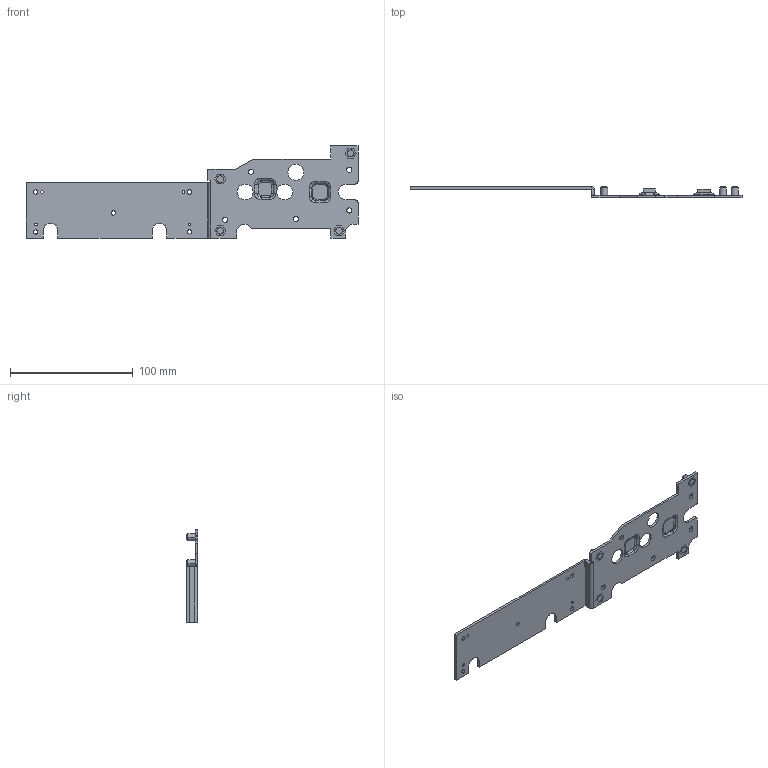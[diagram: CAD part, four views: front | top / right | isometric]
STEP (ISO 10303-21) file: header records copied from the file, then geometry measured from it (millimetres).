
FILE_DESCRIPTION((''),'2;1');
FILE_NAME('HEAT_SPREADER_AMP_BOTTOM_ASSY_ASM','2020-08-11T',('G6003023'),(''),'PRO/ENGINEER BY PARAMETRIC TECHNOLOGY CORPORATION, 2013150','PRO/ENGINEER BY PARAMETRIC TECHNOLOGY CORPORATION, 2013150','');
FILE_SCHEMA(('CONFIG_CONTROL_DESIGN'));
Length unit declared in the file: millimetre
Products named in the file (4): HEAT_SPREADER_AMP_BOTTOM; STAND-OFF-M3-03; THERMAL_PAD_01-AMP_BOTTOM; HEAT_SPREADER_AMP_BOTTOM_ASSY_ASM
Assembly tree (7 placements, depth 2):
  HEAT_SPREADER_AMP_BOTTOM_ASSY_ASM
    HEAT_SPREADER_AMP_BOTTOM
    STAND-OFF-M3-03  x4
    THERMAL_PAD_01-AMP_BOTTOM  x2
Bounding box: 270 x 9.2 x 75 mm (x, y, z)
Volume: 27407.8 mm3; surface area: 30267.4 mm2
Topology: 7 solids, 7 shells, 293 faces, 705 edges, 446 vertices
Faces by surface type: cylinder 127, plane 117, bspline 41, cone 8
Entity records: 9579 total; most frequent: CARTESIAN_POINT 4260, ORIENTED_EDGE 1110, DIRECTION 1039, EDGE_CURVE 555, AXIS2_PLACEMENT_3D 383, VERTEX_POINT 348, VECTOR 273, LINE 273
